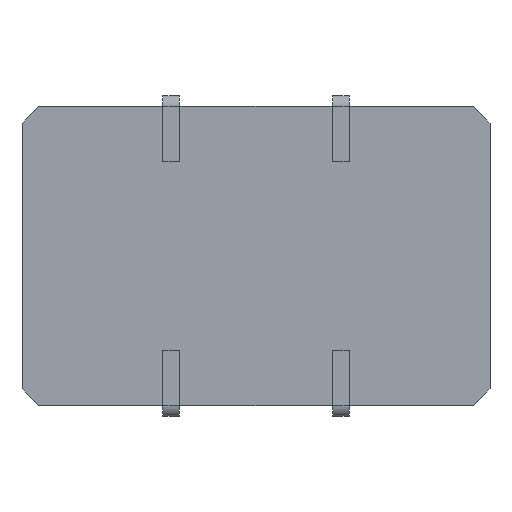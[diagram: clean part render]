
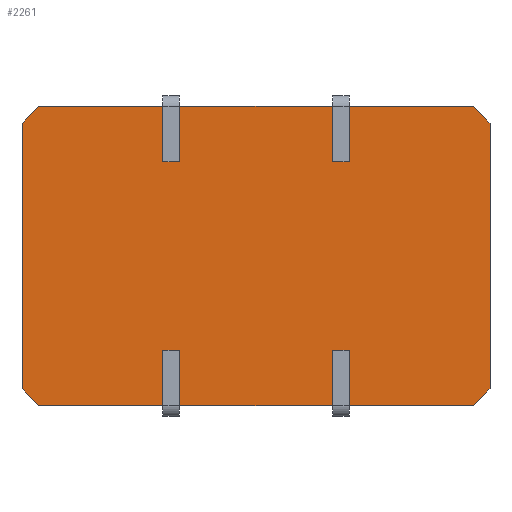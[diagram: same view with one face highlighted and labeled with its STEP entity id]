
A CAD part, front view. The second image highlights one B-rep face of the part: STEP entity #2261.
In plain terms, the highlighted planar face has unit normal (0, -1, 0).
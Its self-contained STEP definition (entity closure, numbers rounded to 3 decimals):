
#2103 = CARTESIAN_POINT ( 'NONE',  ( 7., 0.35, 3.975 ) ) ;
#2104 = VERTEX_POINT ( 'NONE', #2103 ) ;
#2111 = CARTESIAN_POINT ( 'NONE',  ( 7., 0.35, -3.975 ) ) ;
#2112 = VERTEX_POINT ( 'NONE', #2111 ) ;
#2113 = CARTESIAN_POINT ( 'NONE',  ( 7., 0.35, 4.475 ) ) ;
#2114 = DIRECTION ( 'NONE',  ( 0., 0., -1. ) ) ;
#2115 = VECTOR ( 'NONE', #2114, 1000. ) ;
#2116 = LINE ( 'NONE', #2113, #2115 ) ;
#2117 = EDGE_CURVE ( 'NONE', #2104, #2112, #2116, .T. ) ;
#2134 = CARTESIAN_POINT ( 'NONE',  ( 6.5, 0.35, -4.475 ) ) ;
#2135 = VERTEX_POINT ( 'NONE', #2134 ) ;
#2142 = CARTESIAN_POINT ( 'NONE',  ( -6.5, 0.35, -4.475 ) ) ;
#2143 = VERTEX_POINT ( 'NONE', #2142 ) ;
#2144 = CARTESIAN_POINT ( 'NONE',  ( -7., 0.35, -4.475 ) ) ;
#2145 = DIRECTION ( 'NONE',  ( -1., 0., 0. ) ) ;
#2146 = VECTOR ( 'NONE', #2145, 1000. ) ;
#2147 = LINE ( 'NONE', #2144, #2146 ) ;
#2148 = EDGE_CURVE ( 'NONE', #2135, #2143, #2147, .T. ) ;
#2164 = CARTESIAN_POINT ( 'NONE',  ( -7., 0.35, -3.975 ) ) ;
#2165 = VERTEX_POINT ( 'NONE', #2164 ) ;
#2166 = CARTESIAN_POINT ( 'NONE',  ( -7., 0.35, 3.975 ) ) ;
#2167 = VERTEX_POINT ( 'NONE', #2166 ) ;
#2168 = CARTESIAN_POINT ( 'NONE',  ( -7., 0.35, 4.475 ) ) ;
#2169 = DIRECTION ( 'NONE',  ( 0., 0., 1. ) ) ;
#2170 = VECTOR ( 'NONE', #2169, 1000. ) ;
#2171 = LINE ( 'NONE', #2168, #2170 ) ;
#2172 = EDGE_CURVE ( 'NONE', #2165, #2167, #2171, .T. ) ;
#2195 = CARTESIAN_POINT ( 'NONE',  ( -6.5, 0.35, 4.475 ) ) ;
#2196 = VERTEX_POINT ( 'NONE', #2195 ) ;
#2197 = CARTESIAN_POINT ( 'NONE',  ( 6.5, 0.35, 4.475 ) ) ;
#2198 = VERTEX_POINT ( 'NONE', #2197 ) ;
#2199 = CARTESIAN_POINT ( 'NONE',  ( -7., 0.35, 4.475 ) ) ;
#2200 = DIRECTION ( 'NONE',  ( 1., 0., 0. ) ) ;
#2201 = VECTOR ( 'NONE', #2200, 1000. ) ;
#2202 = LINE ( 'NONE', #2199, #2201 ) ;
#2203 = EDGE_CURVE ( 'NONE', #2196, #2198, #2202, .T. ) ;
#2226 = ORIENTED_EDGE ( 'NONE', *, *, #2117, .F. ) ;
#2227 = CARTESIAN_POINT ( 'NONE',  ( 5.55, 0.35, 5.425 ) ) ;
#2228 = DIRECTION ( 'NONE',  ( -0.707, 0., 0.707 ) ) ;
#2229 = VECTOR ( 'NONE', #2228, 1000. ) ;
#2230 = LINE ( 'NONE', #2227, #2229 ) ;
#2231 = EDGE_CURVE ( 'NONE', #2104, #2198, #2230, .T. ) ;
#2232 = ORIENTED_EDGE ( 'NONE', *, *, #2231, .T. ) ;
#2233 = ORIENTED_EDGE ( 'NONE', *, *, #2203, .F. ) ;
#2234 = CARTESIAN_POINT ( 'NONE',  ( -5.55, 0.35, 5.425 ) ) ;
#2235 = DIRECTION ( 'NONE',  ( -0.707, 0., -0.707 ) ) ;
#2236 = VECTOR ( 'NONE', #2235, 1000. ) ;
#2237 = LINE ( 'NONE', #2234, #2236 ) ;
#2238 = EDGE_CURVE ( 'NONE', #2196, #2167, #2237, .T. ) ;
#2239 = ORIENTED_EDGE ( 'NONE', *, *, #2238, .T. ) ;
#2240 = ORIENTED_EDGE ( 'NONE', *, *, #2172, .F. ) ;
#2241 = CARTESIAN_POINT ( 'NONE',  ( -5.55, 0.35, -5.425 ) ) ;
#2242 = DIRECTION ( 'NONE',  ( 0.707, 0., -0.707 ) ) ;
#2243 = VECTOR ( 'NONE', #2242, 1000. ) ;
#2244 = LINE ( 'NONE', #2241, #2243 ) ;
#2245 = EDGE_CURVE ( 'NONE', #2165, #2143, #2244, .T. ) ;
#2246 = ORIENTED_EDGE ( 'NONE', *, *, #2245, .T. ) ;
#2247 = ORIENTED_EDGE ( 'NONE', *, *, #2148, .F. ) ;
#2248 = CARTESIAN_POINT ( 'NONE',  ( 5.55, 0.35, -5.425 ) ) ;
#2249 = DIRECTION ( 'NONE',  ( 0.707, 0., 0.707 ) ) ;
#2250 = VECTOR ( 'NONE', #2249, 1000. ) ;
#2251 = LINE ( 'NONE', #2248, #2250 ) ;
#2252 = EDGE_CURVE ( 'NONE', #2135, #2112, #2251, .T. ) ;
#2253 = ORIENTED_EDGE ( 'NONE', *, *, #2252, .T. ) ;
#2254 = EDGE_LOOP ( 'NONE', ( #2226, #2232, #2233, #2239, #2240, #2246, #2247, #2253 ) ) ;
#2255 = FACE_OUTER_BOUND ( 'NONE', #2254, .T. ) ;
#2256 = CARTESIAN_POINT ( 'NONE',  ( 0., 0.35, 0. ) ) ;
#2257 = DIRECTION ( 'NONE',  ( 0., -1., 0. ) ) ;
#2258 = DIRECTION ( 'NONE',  ( 0., 0., -1. ) ) ;
#2259 = AXIS2_PLACEMENT_3D ( 'NONE', #2256, #2257, #2258 ) ;
#2260 = PLANE ( 'NONE', #2259 ) ;
#2261 = ADVANCED_FACE ( 'NONE', ( #2255 ), #2260, .T. ) ;
